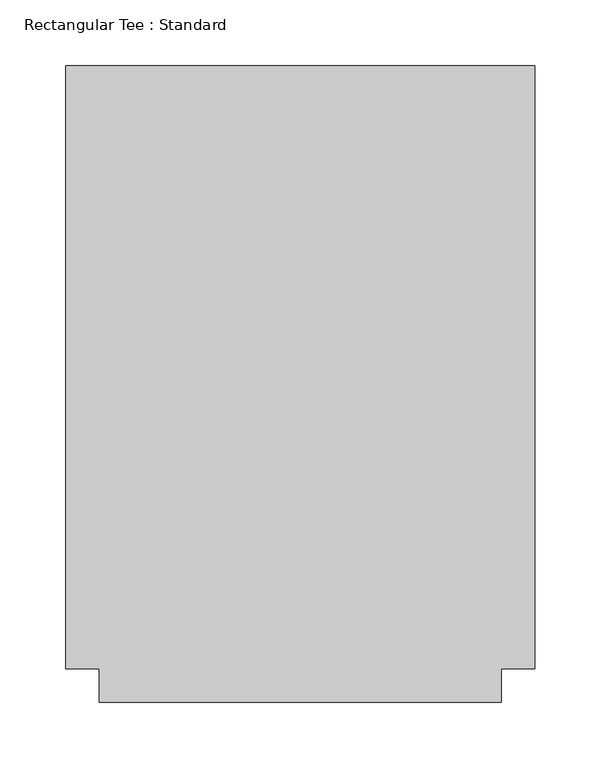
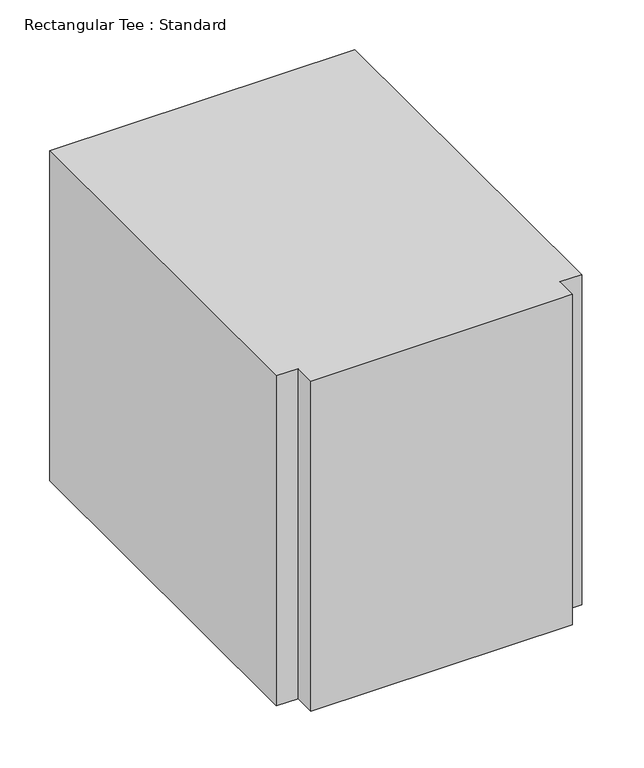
"""IFC4 building model written with IfcOpenShell, lengths in millimetres: duct fitting geometry, Rectangular Tee : Standard."""

from ifc_helpers import new_model, si_unit, frame, origin, place, context, project, spatial, polyline, outline, extrude, source, transform, mapped, element, save


def rectangular_tee_standard_d8c1cff5(model_context):
    return source(origin(), model_context, "Body", "SweptSolid", [
        extrude(outline(polyline([(-177.8, -228.6), (-177.8, 228.6), (177.8, 228.6), (177.8, -228.6), (152.4, -228.6), (152.4, -254.0), (-152.4, -254.0), (-152.4, -228.6), (-177.8, -228.6)])), frame((0.0, 0.0, -203.2), z_axis=(0.0, 0.0, 1.0), x_axis=(1.0, 0.0, 0.0)), (0.0, 0.0, 1.0), 406.4),
    ])


if __name__ == "__main__":
    model = new_model("IFC4")
    model_context = context("Model", 3, world=origin())
    ifc_project = project(units=[si_unit("LENGTHUNIT", "METRE", prefix="MILLI")], contexts=[model_context])
    site = spatial("IfcSite", under=ifc_project)
    building = spatial("IfcBuilding", under=site)
    placement = place(None, origin())
    rectangular_tee_standard_shape = rectangular_tee_standard_d8c1cff5(model_context)
    element("IfcDuctFitting", 1, ObjectType="Rectangular Tee : Standard", at=placement, inside=building, context=model_context, shape_type="MappedRepresentation", body=[
        mapped(rectangular_tee_standard_shape, transform((0.0, 0.0, 0.0), x_axis=(1.0, 0.0, 0.0), y_axis=(0.0, 1.0, 0.0), z_axis=(0.0, 0.0, 1.0))),
    ])
    save(model, "model.ifc")
